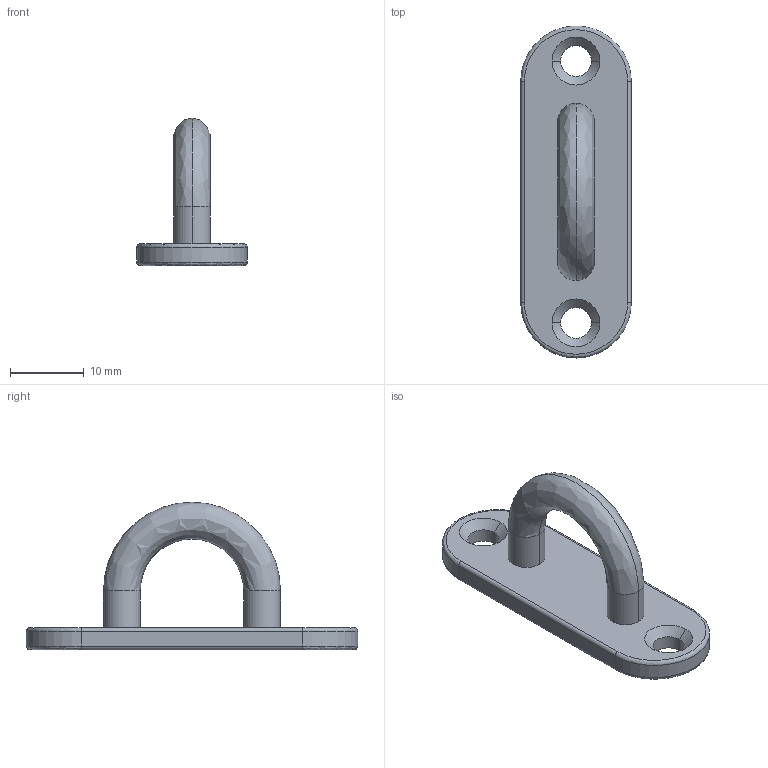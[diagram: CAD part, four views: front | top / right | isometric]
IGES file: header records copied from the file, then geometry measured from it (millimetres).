
Start section:  PTC IGES file: EB-925S-1.igs
Global section: file name: EB-925S-1.igs; native system: Creo Parametric by Parametric Technology Corporation; preprocessor: 2012360; author: xeon_3; organization: Unknown; date: 20130925.132446; units: millimetre
Bounding box: 15 x 45 x 20 mm (x, y, z)
Volume: 2547.3 mm3; surface area: 2124.6 mm2
Topology: 1 solids, 1 shells, 28 faces, 62 edges, 36 vertices
Faces by surface type: revolution 24, bspline 4
